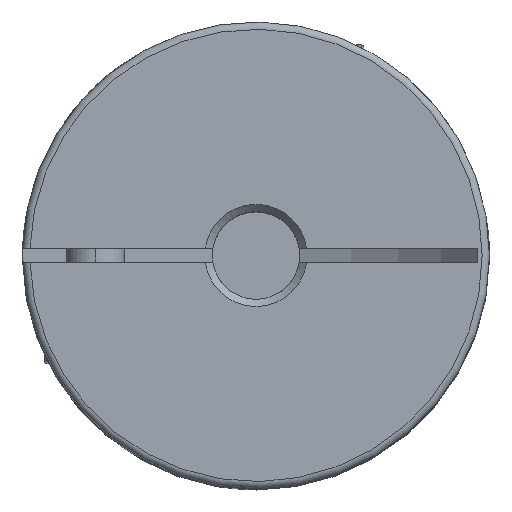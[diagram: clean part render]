
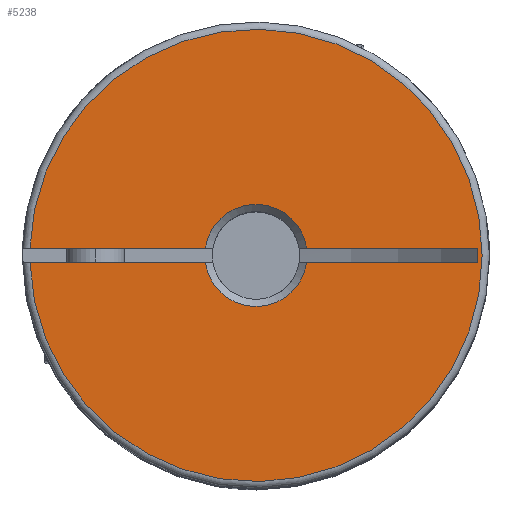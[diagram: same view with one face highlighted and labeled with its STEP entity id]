
A CAD part, top view. The second image highlights one B-rep face of the part: STEP entity #5238.
In plain terms, the highlighted planar face has unit normal (0, 0, 1).
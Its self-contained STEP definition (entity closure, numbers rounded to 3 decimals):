
#242 = ORIENTED_EDGE ( 'NONE', *, *, #5832, .F. ) ;
#245 = ORIENTED_EDGE ( 'NONE', *, *, #5836, .T. ) ;
#301 = ORIENTED_EDGE ( 'NONE', *, *, #5838, .T. ) ;
#378 = ORIENTED_EDGE ( 'NONE', *, *, #5835, .T. ) ;
#405 = ORIENTED_EDGE ( 'NONE', *, *, #5902, .F. ) ;
#439 = ORIENTED_EDGE ( 'NONE', *, *, #7520, .T. ) ;
#445 = ORIENTED_EDGE ( 'NONE', *, *, #5837, .F. ) ;
#455 = ORIENTED_EDGE ( 'NONE', *, *, #5833, .T. ) ;
#485 = VERTEX_POINT ( 'NONE', #2168 ) ;
#490 = VERTEX_POINT ( 'NONE', #2162 ) ;
#494 = VERTEX_POINT ( 'NONE', #2157 ) ;
#501 = VERTEX_POINT ( 'NONE', #2150 ) ;
#1218 = DIRECTION ( 'NONE',  ( 1., 0., 0. ) ) ;
#1220 = CARTESIAN_POINT ( 'NONE',  ( -16., 0.5, 22.35 ) ) ;
#1251 = DIRECTION ( 'NONE',  ( 1., 0., 0. ) ) ;
#1252 = CARTESIAN_POINT ( 'NONE',  ( -16., -0.5, 22.35 ) ) ;
#1473 = CARTESIAN_POINT ( 'NONE',  ( 15.2, -0.5, 22.35 ) ) ;
#1496 = DIRECTION ( 'NONE',  ( -1., 0., 0. ) ) ;
#1497 = DIRECTION ( 'NONE',  ( 0., 0., -1. ) ) ;
#1498 = CARTESIAN_POINT ( 'NONE',  ( 0., 0., 22.35 ) ) ;
#1500 = DIRECTION ( 'NONE',  ( 0., 1., 0. ) ) ;
#1502 = DIRECTION ( 'NONE',  ( 0., 0., 1. ) ) ;
#1503 = CARTESIAN_POINT ( 'NONE',  ( 0., 0., 22.35 ) ) ;
#1508 = DIRECTION ( 'NONE',  ( 1., 0., 0. ) ) ;
#1509 = CARTESIAN_POINT ( 'NONE',  ( -16., 0.5, 22.35 ) ) ;
#1510 = DIRECTION ( 'NONE',  ( -1., 0., 0. ) ) ;
#1511 = DIRECTION ( 'NONE',  ( 0., 0., -1. ) ) ;
#1517 = DIRECTION ( 'NONE',  ( 1., 0., 0. ) ) ;
#1518 = CARTESIAN_POINT ( 'NONE',  ( -16., -0.5, 22.35 ) ) ;
#1635 = CARTESIAN_POINT ( 'NONE',  ( 0., 0., 22.35 ) ) ;
#1799 = DIRECTION ( 'NONE',  ( -1., 0., 0. ) ) ;
#1909 = DIRECTION ( 'NONE',  ( -1., 0., 0. ) ) ;
#1910 = DIRECTION ( 'NONE',  ( 0., 0., -1. ) ) ;
#1911 = PLANE ( 'NONE',  #5617 ) ;
#1916 = CARTESIAN_POINT ( 'NONE',  ( 0., 0., 22.35 ) ) ;
#2150 = CARTESIAN_POINT ( 'NONE',  ( 15.2, -0.5, 22.35 ) ) ;
#2157 = CARTESIAN_POINT ( 'NONE',  ( 3.464, 0.5, 22.35 ) ) ;
#2162 = CARTESIAN_POINT ( 'NONE',  ( -15.492, 0.5, 22.35 ) ) ;
#2168 = CARTESIAN_POINT ( 'NONE',  ( -3.464, -0.5, 22.35 ) ) ;
#4041 = FACE_OUTER_BOUND ( 'NONE', #4552, .T. ) ;
#4191 = CIRCLE ( 'NONE', #5555, 3.5 ) ;
#4199 = LINE ( 'NONE', #1518, #4200 ) ;
#4200 = VECTOR ( 'NONE', #1517, 1000. ) ;
#4201 = CIRCLE ( 'NONE', #5552, 3.5 ) ;
#4202 = CIRCLE ( 'NONE', #5553, 15.5 ) ;
#4203 = LINE ( 'NONE', #1509, #4205 ) ;
#4204 = LINE ( 'NONE', #1473, #4207 ) ;
#4205 = VECTOR ( 'NONE', #1508, 1000. ) ;
#4207 = VECTOR ( 'NONE', #1500, 1000. ) ;
#4278 = VECTOR ( 'NONE', #1251, 1000. ) ;
#4280 = LINE ( 'NONE', #1252, #4278 ) ;
#4356 = LINE ( 'NONE', #1220, #4357 ) ;
#4357 = VECTOR ( 'NONE', #1218, 1000. ) ;
#4552 = EDGE_LOOP ( 'NONE', ( #242, #455, #405, #378, #439, #301, #245, #445 ) ) ;
#5238 = ADVANCED_FACE ( 'NONE', ( #4041 ), #1911, .F. ) ;
#5552 = AXIS2_PLACEMENT_3D ( 'NONE', #1498, #1497, #1496 ) ;
#5553 = AXIS2_PLACEMENT_3D ( 'NONE', #1503, #1502, #1799 ) ;
#5555 = AXIS2_PLACEMENT_3D ( 'NONE', #1635, #1511, #1510 ) ;
#5617 = AXIS2_PLACEMENT_3D ( 'NONE', #1916, #1910, #1909 ) ;
#5832 = EDGE_CURVE ( 'NONE', #7004, #501, #4199, .T. ) ;
#5833 = EDGE_CURVE ( 'NONE', #7004, #485, #4191, .T. ) ;
#5835 = EDGE_CURVE ( 'NONE', #6990, #490, #4202, .T. ) ;
#5836 = EDGE_CURVE ( 'NONE', #494, #6991, #4203, .T. ) ;
#5837 = EDGE_CURVE ( 'NONE', #501, #6991, #4204, .T. ) ;
#5838 = EDGE_CURVE ( 'NONE', #7023, #494, #4201, .T. ) ;
#5902 = EDGE_CURVE ( 'NONE', #6990, #485, #4280, .T. ) ;
#6602 = CARTESIAN_POINT ( 'NONE',  ( -15.492, -0.5, 22.35 ) ) ;
#6620 = CARTESIAN_POINT ( 'NONE',  ( 3.464, -0.5, 22.35 ) ) ;
#6654 = CARTESIAN_POINT ( 'NONE',  ( 15.2, 0.5, 22.35 ) ) ;
#6809 = CARTESIAN_POINT ( 'NONE',  ( -3.464, 0.5, 22.35 ) ) ;
#6990 = VERTEX_POINT ( 'NONE', #6602 ) ;
#6991 = VERTEX_POINT ( 'NONE', #6654 ) ;
#7004 = VERTEX_POINT ( 'NONE', #6620 ) ;
#7023 = VERTEX_POINT ( 'NONE', #6809 ) ;
#7520 = EDGE_CURVE ( 'NONE', #490, #7023, #4356, .T. ) ;
